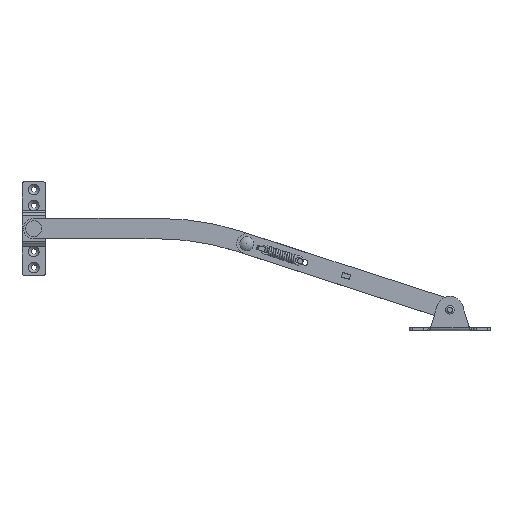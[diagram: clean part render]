
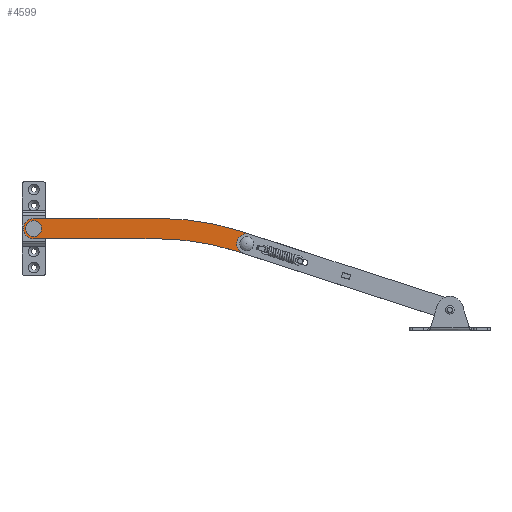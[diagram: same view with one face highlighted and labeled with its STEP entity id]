
A CAD part, top view. The second image highlights one B-rep face of the part: STEP entity #4599.
In plain terms, the highlighted planar face has unit normal (0, 0, 1).
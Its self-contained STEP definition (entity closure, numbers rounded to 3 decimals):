
#183=FACE_BOUND('',#1681,.T.);
#184=FACE_BOUND('',#1682,.T.);
#318=PLANE('',#5022);
#570=LINE('',#7411,#927);
#580=LINE('',#7449,#937);
#583=LINE('',#7457,#940);
#586=LINE('',#7467,#943);
#587=LINE('',#7470,#944);
#591=LINE('',#7483,#948);
#594=LINE('',#7492,#951);
#927=VECTOR('',#6001,70.727);
#937=VECTOR('',#6035,0.804);
#940=VECTOR('',#6044,2.);
#943=VECTOR('',#6057,4.);
#944=VECTOR('',#6060,57.717);
#948=VECTOR('',#6074,117.5);
#951=VECTOR('',#6087,114.491);
#1352=FACE_OUTER_BOUND('',#1680,.T.);
#1680=EDGE_LOOP('',(#3861,#3862,#3863,#3864,#3865,#3866,#3867,#3868,#3869,
#3870,#3871,#3872,#3873,#3874,#3875));
#1681=EDGE_LOOP('',(#3876));
#1682=EDGE_LOOP('',(#3877));
#1971=CIRCLE('',#4982,7.5);
#1974=CIRCLE('',#4988,1.);
#1984=CIRCLE('',#5001,4.);
#1985=CIRCLE('',#5004,2.);
#1986=CIRCLE('',#5007,2.);
#1987=CIRCLE('',#5009,4.);
#1988=CIRCLE('',#5013,4.);
#1989=CIRCLE('',#5015,9.5);
#1990=CIRCLE('',#5018,250.);
#1991=CIRCLE('',#5020,250.);
#2299=VERTEX_POINT('',#7389);
#2302=VERTEX_POINT('',#7398);
#2303=VERTEX_POINT('',#7399);
#2307=VERTEX_POINT('',#7409);
#2321=VERTEX_POINT('',#7441);
#2322=VERTEX_POINT('',#7442);
#2323=VERTEX_POINT('',#7447);
#2324=VERTEX_POINT('',#7451);
#2325=VERTEX_POINT('',#7453);
#2326=VERTEX_POINT('',#7459);
#2327=VERTEX_POINT('',#7463);
#2328=VERTEX_POINT('',#7469);
#2329=VERTEX_POINT('',#7473);
#2330=VERTEX_POINT('',#7476);
#2331=VERTEX_POINT('',#7478);
#2332=VERTEX_POINT('',#7482);
#2333=VERTEX_POINT('',#7488);
#2837=EDGE_CURVE('',#2299,#2299,#1971,.T.);
#2840=EDGE_CURVE('',#2302,#2303,#1974,.T.);
#2846=EDGE_CURVE('',#2302,#2307,#570,.T.);
#2861=EDGE_CURVE('',#2321,#2322,#1984,.T.);
#2865=EDGE_CURVE('',#2321,#2323,#580,.T.);
#2867=EDGE_CURVE('',#2324,#2325,#1985,.T.);
#2869=EDGE_CURVE('',#2324,#2303,#583,.T.);
#2870=EDGE_CURVE('',#2326,#2323,#1986,.T.);
#2873=EDGE_CURVE('',#2326,#2327,#1987,.T.);
#2874=EDGE_CURVE('',#2327,#2325,#586,.T.);
#2875=EDGE_CURVE('',#2328,#2322,#587,.T.);
#2877=EDGE_CURVE('',#2329,#2329,#1988,.T.);
#2879=EDGE_CURVE('',#2331,#2330,#1989,.T.);
#2881=EDGE_CURVE('',#2332,#2331,#591,.T.);
#2883=EDGE_CURVE('',#2307,#2332,#1990,.T.);
#2884=EDGE_CURVE('',#2333,#2328,#1991,.T.);
#2886=EDGE_CURVE('',#2330,#2333,#594,.T.);
#3861=ORIENTED_EDGE('',*,*,#2840,.F.);
#3862=ORIENTED_EDGE('',*,*,#2846,.T.);
#3863=ORIENTED_EDGE('',*,*,#2883,.T.);
#3864=ORIENTED_EDGE('',*,*,#2881,.T.);
#3865=ORIENTED_EDGE('',*,*,#2879,.T.);
#3866=ORIENTED_EDGE('',*,*,#2886,.T.);
#3867=ORIENTED_EDGE('',*,*,#2884,.T.);
#3868=ORIENTED_EDGE('',*,*,#2875,.T.);
#3869=ORIENTED_EDGE('',*,*,#2861,.F.);
#3870=ORIENTED_EDGE('',*,*,#2865,.T.);
#3871=ORIENTED_EDGE('',*,*,#2870,.F.);
#3872=ORIENTED_EDGE('',*,*,#2873,.T.);
#3873=ORIENTED_EDGE('',*,*,#2874,.T.);
#3874=ORIENTED_EDGE('',*,*,#2867,.F.);
#3875=ORIENTED_EDGE('',*,*,#2869,.T.);
#3876=ORIENTED_EDGE('',*,*,#2837,.T.);
#3877=ORIENTED_EDGE('',*,*,#2877,.T.);
#4599=ADVANCED_FACE('',(#1352,#183,#184),#318,.T.);
#4982=AXIS2_PLACEMENT_3D('',#7390,#5979,#5980);
#4988=AXIS2_PLACEMENT_3D('',#7400,#5991,#5992);
#5001=AXIS2_PLACEMENT_3D('',#7443,#6028,#6029);
#5004=AXIS2_PLACEMENT_3D('',#7454,#6039,#6040);
#5007=AXIS2_PLACEMENT_3D('',#7460,#6047,#6048);
#5009=AXIS2_PLACEMENT_3D('',#7465,#6053,#6054);
#5013=AXIS2_PLACEMENT_3D('',#7474,#6064,#6065);
#5015=AXIS2_PLACEMENT_3D('',#7479,#6069,#6070);
#5018=AXIS2_PLACEMENT_3D('',#7486,#6078,#6079);
#5020=AXIS2_PLACEMENT_3D('',#7489,#6082,#6083);
#5022=AXIS2_PLACEMENT_3D('',#7493,#6088,#6089);
#5979=DIRECTION('center_axis',(0.,0.,-1.));
#5980=DIRECTION('ref_axis',(-1.,0.,0.));
#5991=DIRECTION('center_axis',(0.,0.,-1.));
#5992=DIRECTION('ref_axis',(0.891,0.454,0.));
#6001=DIRECTION('',(-0.951,0.309,0.));
#6028=DIRECTION('center_axis',(0.,0.,-1.));
#6029=DIRECTION('ref_axis',(0.454,-0.891,0.));
#6035=DIRECTION('',(0.309,0.951,0.));
#6039=DIRECTION('center_axis',(0.,0.,-1.));
#6040=DIRECTION('ref_axis',(0.454,-0.891,0.));
#6044=DIRECTION('',(0.309,0.951,0.));
#6047=DIRECTION('center_axis',(0.,0.,-1.));
#6048=DIRECTION('ref_axis',(0.978,0.208,0.));
#6053=DIRECTION('center_axis',(0.,0.,-1.));
#6054=DIRECTION('ref_axis',(1.,0.,0.));
#6057=DIRECTION('',(0.951,-0.309,0.));
#6060=DIRECTION('',(0.951,-0.309,0.));
#6064=DIRECTION('center_axis',(0.,0.,-1.));
#6065=DIRECTION('ref_axis',(-1.,0.,0.));
#6069=DIRECTION('center_axis',(0.,0.,1.));
#6070=DIRECTION('ref_axis',(0.,1.,0.));
#6074=DIRECTION('',(-1.,0.,0.));
#6078=DIRECTION('center_axis',(0.,0.,1.));
#6079=DIRECTION('ref_axis',(0.309,0.951,0.));
#6082=DIRECTION('center_axis',(0.,0.,-1.));
#6083=DIRECTION('ref_axis',(-0.309,-0.951,0.));
#6087=DIRECTION('',(1.,0.,0.));
#6088=DIRECTION('center_axis',(0.,0.,1.));
#6089=DIRECTION('ref_axis',(1.,0.,0.));
#7389=CARTESIAN_POINT('',(2.,0.,3.));
#7390=CARTESIAN_POINT('Origin',(9.5,0.,3.));
#7398=CARTESIAN_POINT('',(271.52,-24.592,3.));
#7399=CARTESIAN_POINT('',(272.162,-25.852,3.));
#7400=CARTESIAN_POINT('Origin',(271.211,-25.543,3.));
#7409=CARTESIAN_POINT('',(204.255,-2.736,3.));
#7411=CARTESIAN_POINT('',(272.471,-24.901,3.));
#7441=CARTESIAN_POINT('',(261.178,-37.003,3.));
#7442=CARTESIAN_POINT('',(256.138,-39.572,3.));
#7443=CARTESIAN_POINT('Origin',(257.374,-35.767,3.));
#7447=CARTESIAN_POINT('',(261.426,-36.239,3.));
#7449=CARTESIAN_POINT('',(258.853,-44.16,3.));
#7451=CARTESIAN_POINT('',(271.544,-27.754,3.));
#7453=CARTESIAN_POINT('',(269.024,-29.038,3.));
#7454=CARTESIAN_POINT('Origin',(269.642,-27.136,3.));
#7457=CARTESIAN_POINT('',(266.599,-42.971,3.));
#7459=CARTESIAN_POINT('',(261.011,-34.283,3.));
#7460=CARTESIAN_POINT('Origin',(259.524,-35.621,3.));
#7463=CARTESIAN_POINT('',(265.219,-27.802,3.));
#7465=CARTESIAN_POINT('Origin',(263.983,-31.606,3.));
#7467=CARTESIAN_POINT('',(202.922,-7.56,3.));
#7469=CARTESIAN_POINT('',(201.245,-21.736,3.));
#7470=CARTESIAN_POINT('',(248.529,-37.099,3.));
#7473=CARTESIAN_POINT('',(212.991,-14.264,3.));
#7474=CARTESIAN_POINT('Origin',(208.991,-14.264,3.));
#7476=CARTESIAN_POINT('',(9.5,-9.5,3.));
#7478=CARTESIAN_POINT('',(9.5,9.5,3.));
#7479=CARTESIAN_POINT('Origin',(9.5,0.,3.));
#7482=CARTESIAN_POINT('',(127.,9.5,3.));
#7483=CARTESIAN_POINT('',(127.,9.5,3.));
#7486=CARTESIAN_POINT('Origin',(127.,-240.5,3.));
#7488=CARTESIAN_POINT('',(123.991,-9.5,3.));
#7489=CARTESIAN_POINT('Origin',(123.991,-259.5,3.));
#7492=CARTESIAN_POINT('',(9.5,-9.5,3.));
#7493=CARTESIAN_POINT('Origin',(134.12,-7.338,3.));
